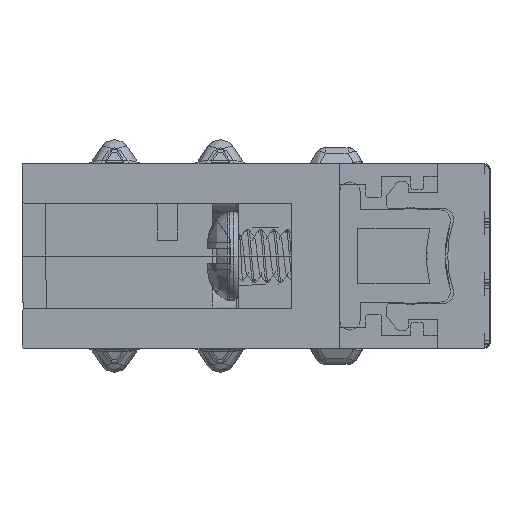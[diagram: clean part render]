
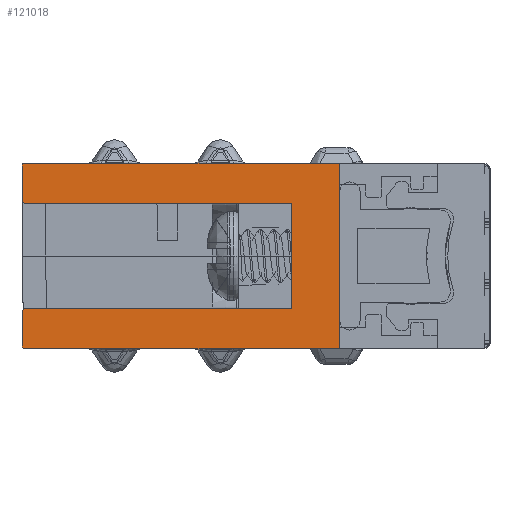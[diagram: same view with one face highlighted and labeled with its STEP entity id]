
A CAD part, left-side view. The second image highlights one B-rep face of the part: STEP entity #121018.
In plain terms, the highlighted planar face has unit normal (-1, 0, 0).
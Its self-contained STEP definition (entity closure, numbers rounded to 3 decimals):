
#133 = CARTESIAN_POINT ( 'NONE',  ( -300., 3.7, -3.5 ) ) ;
#756 = AXIS2_PLACEMENT_3D ( 'NONE', #30538, #163510, #89765 ) ;
#1786 = CARTESIAN_POINT ( 'NONE',  ( -300., 15.7, 2.1 ) ) ;
#2002 = DIRECTION ( 'NONE',  ( 0., 0., 1. ) ) ;
#4266 = CARTESIAN_POINT ( 'NONE',  ( -300., 15.6, -2. ) ) ;
#6419 = ORIENTED_EDGE ( 'NONE', *, *, #176560, .T. ) ;
#7272 = CARTESIAN_POINT ( 'NONE',  ( -300., 15.6, -3.4 ) ) ;
#7770 = CARTESIAN_POINT ( 'NONE',  ( -300., 3.7, 3.5 ) ) ;
#8101 = LINE ( 'NONE', #38175, #70694 ) ;
#9544 = VERTEX_POINT ( 'NONE', #28145 ) ;
#13030 = VERTEX_POINT ( 'NONE', #149598 ) ;
#14701 = LINE ( 'NONE', #133, #61832 ) ;
#15909 = CARTESIAN_POINT ( 'NONE',  ( -300., 15.6, 3.4 ) ) ;
#17682 = EDGE_CURVE ( 'NONE', #70149, #50662, #171620, .T. ) ;
#20107 = EDGE_CURVE ( 'NONE', #110307, #9544, #171120, .T. ) ;
#20801 = CARTESIAN_POINT ( 'NONE',  ( -300., 15.7, -3.4 ) ) ;
#21216 = VERTEX_POINT ( 'NONE', #81551 ) ;
#23076 = CIRCLE ( 'NONE', #94338, 0.1 ) ;
#23123 = EDGE_CURVE ( 'NONE', #110307, #110604, #76373, .T. ) ;
#28145 = CARTESIAN_POINT ( 'NONE',  ( -300., 15.7, 3.4 ) ) ;
#28305 = DIRECTION ( 'NONE',  ( 0., 0., 1. ) ) ;
#28950 = FACE_OUTER_BOUND ( 'NONE', #159520, .T. ) ;
#29179 = VECTOR ( 'NONE', #182591, 1000. ) ;
#29900 = DIRECTION ( 'NONE',  ( 1., 0., 0. ) ) ;
#30538 = CARTESIAN_POINT ( 'NONE',  ( -300., 15.6, 2.1 ) ) ;
#34540 = EDGE_CURVE ( 'NONE', #131720, #102139, #8101, .T. ) ;
#38096 = VECTOR ( 'NONE', #173222, 1000. ) ;
#38175 = CARTESIAN_POINT ( 'NONE',  ( -300., 5.5, 2. ) ) ;
#39985 = CARTESIAN_POINT ( 'NONE',  ( -300., 15.6, 3.5 ) ) ;
#42904 = LINE ( 'NONE', #87549, #107025 ) ;
#43561 = LINE ( 'NONE', #102752, #98137 ) ;
#46422 = EDGE_CURVE ( 'NONE', #13030, #131720, #100592, .T. ) ;
#48375 = LINE ( 'NONE', #1786, #171759 ) ;
#50662 = VERTEX_POINT ( 'NONE', #159344 ) ;
#52954 = ORIENTED_EDGE ( 'NONE', *, *, #46422, .F. ) ;
#54000 = EDGE_CURVE ( 'NONE', #63813, #122580, #43561, .T. ) ;
#56475 = ORIENTED_EDGE ( 'NONE', *, *, #34540, .F. ) ;
#58482 = CARTESIAN_POINT ( 'NONE',  ( -300., 5.5, 2. ) ) ;
#60544 = DIRECTION ( 'NONE',  ( 0., 0., 1. ) ) ;
#61832 = VECTOR ( 'NONE', #89441, 1000. ) ;
#62092 = ORIENTED_EDGE ( 'NONE', *, *, #23123, .F. ) ;
#62889 = EDGE_CURVE ( 'NONE', #21216, #102139, #137254, .T. ) ;
#63813 = VERTEX_POINT ( 'NONE', #118175 ) ;
#67771 = EDGE_CURVE ( 'NONE', #129740, #50662, #42904, .T. ) ;
#68782 = ORIENTED_EDGE ( 'NONE', *, *, #99980, .T. ) ;
#70149 = VERTEX_POINT ( 'NONE', #4266 ) ;
#70471 = EDGE_CURVE ( 'NONE', #70149, #13030, #120549, .T. ) ;
#70694 = VECTOR ( 'NONE', #188542, 1000. ) ;
#71932 = AXIS2_PLACEMENT_3D ( 'NONE', #15909, #134349, #119775 ) ;
#75821 = DIRECTION ( 'NONE',  ( -1., 0., 0. ) ) ;
#76373 = LINE ( 'NONE', #120984, #38096 ) ;
#78692 = AXIS2_PLACEMENT_3D ( 'NONE', #149565, #75821, #2002 ) ;
#81551 = CARTESIAN_POINT ( 'NONE',  ( -300., 15.7, 2.1 ) ) ;
#87549 = CARTESIAN_POINT ( 'NONE',  ( -300., 15.7, -3.4 ) ) ;
#89441 = DIRECTION ( 'NONE',  ( 0., 0., 1. ) ) ;
#89765 = DIRECTION ( 'NONE',  ( 0., 1., 0. ) ) ;
#91294 = ORIENTED_EDGE ( 'NONE', *, *, #99555, .F. ) ;
#92381 = CARTESIAN_POINT ( 'NONE',  ( -300., 15.6, -2. ) ) ;
#94338 = AXIS2_PLACEMENT_3D ( 'NONE', #7272, #140239, #112080 ) ;
#98137 = VECTOR ( 'NONE', #190094, 1000. ) ;
#99555 = EDGE_CURVE ( 'NONE', #21216, #9544, #48375, .T. ) ;
#99980 = EDGE_CURVE ( 'NONE', #129740, #122580, #23076, .T. ) ;
#100592 = LINE ( 'NONE', #164344, #146240 ) ;
#102139 = VERTEX_POINT ( 'NONE', #123731 ) ;
#102383 = ORIENTED_EDGE ( 'NONE', *, *, #17682, .T. ) ;
#102752 = CARTESIAN_POINT ( 'NONE',  ( -300., 3.7, -3.5 ) ) ;
#103703 = PLANE ( 'NONE',  #114747 ) ;
#107025 = VECTOR ( 'NONE', #28305, 1000. ) ;
#107332 = ORIENTED_EDGE ( 'NONE', *, *, #20107, .T. ) ;
#108861 = ORIENTED_EDGE ( 'NONE', *, *, #54000, .F. ) ;
#110307 = VERTEX_POINT ( 'NONE', #39985 ) ;
#110604 = VERTEX_POINT ( 'NONE', #7770 ) ;
#112080 = DIRECTION ( 'NONE',  ( 0., 1., 0. ) ) ;
#114747 = AXIS2_PLACEMENT_3D ( 'NONE', #119212, #29900, #191033 ) ;
#118175 = CARTESIAN_POINT ( 'NONE',  ( -300., 3.7, -3.5 ) ) ;
#119212 = CARTESIAN_POINT ( 'NONE',  ( -300., 0., 0. ) ) ;
#119775 = DIRECTION ( 'NONE',  ( 0., 0., 1. ) ) ;
#120549 = LINE ( 'NONE', #92381, #29179 ) ;
#120984 = CARTESIAN_POINT ( 'NONE',  ( -300., 15.6, 3.5 ) ) ;
#121018 = ADVANCED_FACE ( 'NONE', ( #28950 ), #103703, .F. ) ;
#122580 = VERTEX_POINT ( 'NONE', #149097 ) ;
#123093 = DIRECTION ( 'NONE',  ( 0., 0., 1. ) ) ;
#123731 = CARTESIAN_POINT ( 'NONE',  ( -300., 15.6, 2. ) ) ;
#129740 = VERTEX_POINT ( 'NONE', #20801 ) ;
#131720 = VERTEX_POINT ( 'NONE', #58482 ) ;
#134106 = ORIENTED_EDGE ( 'NONE', *, *, #67771, .F. ) ;
#134349 = DIRECTION ( 'NONE',  ( -1., 0., 0. ) ) ;
#137254 = CIRCLE ( 'NONE', #756, 0.1 ) ;
#137985 = ORIENTED_EDGE ( 'NONE', *, *, #62889, .T. ) ;
#140239 = DIRECTION ( 'NONE',  ( -1., 0., 0. ) ) ;
#146240 = VECTOR ( 'NONE', #60544, 1000. ) ;
#149097 = CARTESIAN_POINT ( 'NONE',  ( -300., 15.6, -3.5 ) ) ;
#149565 = CARTESIAN_POINT ( 'NONE',  ( -300., 15.6, -2.1 ) ) ;
#149598 = CARTESIAN_POINT ( 'NONE',  ( -300., 5.5, -2. ) ) ;
#151923 = ORIENTED_EDGE ( 'NONE', *, *, #70471, .F. ) ;
#159344 = CARTESIAN_POINT ( 'NONE',  ( -300., 15.7, -2.1 ) ) ;
#159520 = EDGE_LOOP ( 'NONE', ( #62092, #107332, #91294, #137985, #56475, #52954, #151923, #102383, #134106, #68782, #108861, #6419 ) ) ;
#163510 = DIRECTION ( 'NONE',  ( -1., 0., 0. ) ) ;
#164344 = CARTESIAN_POINT ( 'NONE',  ( -300., 5.5, -2. ) ) ;
#171120 = CIRCLE ( 'NONE', #71932, 0.1 ) ;
#171620 = CIRCLE ( 'NONE', #78692, 0.1 ) ;
#171759 = VECTOR ( 'NONE', #123093, 1000. ) ;
#173222 = DIRECTION ( 'NONE',  ( 0., -1., 0. ) ) ;
#176560 = EDGE_CURVE ( 'NONE', #63813, #110604, #14701, .T. ) ;
#182591 = DIRECTION ( 'NONE',  ( 0., -1., 0. ) ) ;
#188542 = DIRECTION ( 'NONE',  ( 0., 1., 0. ) ) ;
#190094 = DIRECTION ( 'NONE',  ( 0., 1., 0. ) ) ;
#191033 = DIRECTION ( 'NONE',  ( 0., 1., 0. ) ) ;
